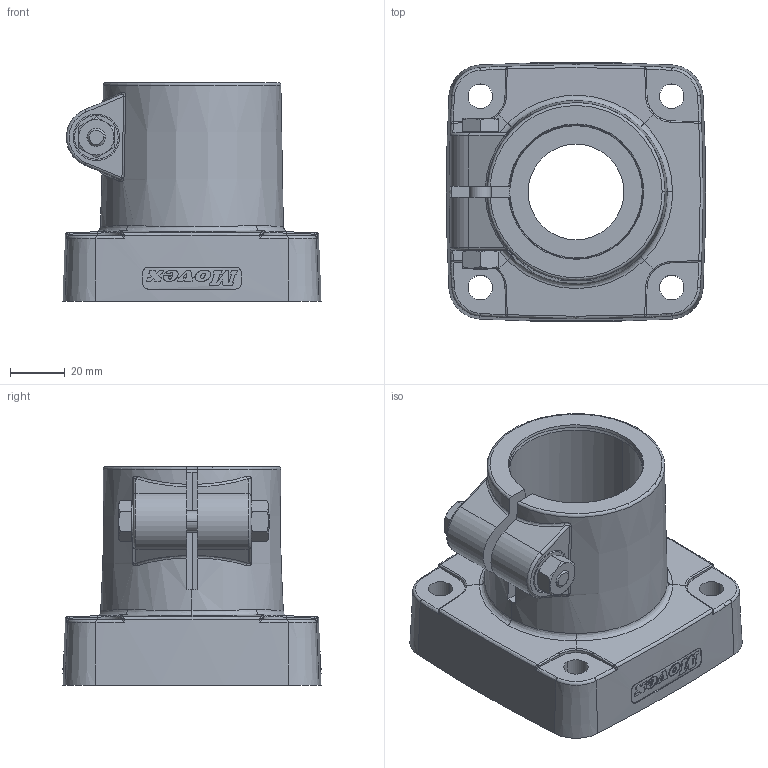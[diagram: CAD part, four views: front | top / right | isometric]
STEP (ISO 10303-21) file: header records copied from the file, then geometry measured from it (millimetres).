
FILE_DESCRIPTION(('CATIA V5 STEP Exchange'),'2;1');
FILE_NAME('\\server01\tecnico\CODICI MOVEX\3D per clienti\Daryna Itsenko\17-10-2013\P41101_01.stp','2013-10-18T07:49:58+00:00',('none'),('none'),'CATIA Version 5 Release 21 SP 1 (IN-10)','CATIA V5 STEP AP203','none');
FILE_SCHEMA(('CONFIG_CONTROL_DESIGN'));
Length unit declared in the file: millimetre
Products named in the file (1): Product1
Assembly tree (5 placements, depth 2):
  Product1
    #58
    #48855  x2
    #49039
    #49623
Bounding box: 94.77 x 94.77 x 80 mm (x, y, z)
Volume: 205136.7 mm3; surface area: 74681 mm2
Topology: 5 solids, 13 shells, 1314 faces, 3631 edges, 2315 vertices
Faces by surface type: plane 952, bspline 148, cylinder 108, cone 48, sphere 40, torus 18
Entity records: 50150 total; most frequent: CARTESIAN_POINT 22627, ORIENTED_EDGE 7142, EDGE_CURVE 3571, DIRECTION 3329, B_SPLINE_CURVE_WITH_KNOTS 2340, VERTEX_POINT 2307, AXIS2_PLACEMENT_3D 1352, EDGE_LOOP 1346
